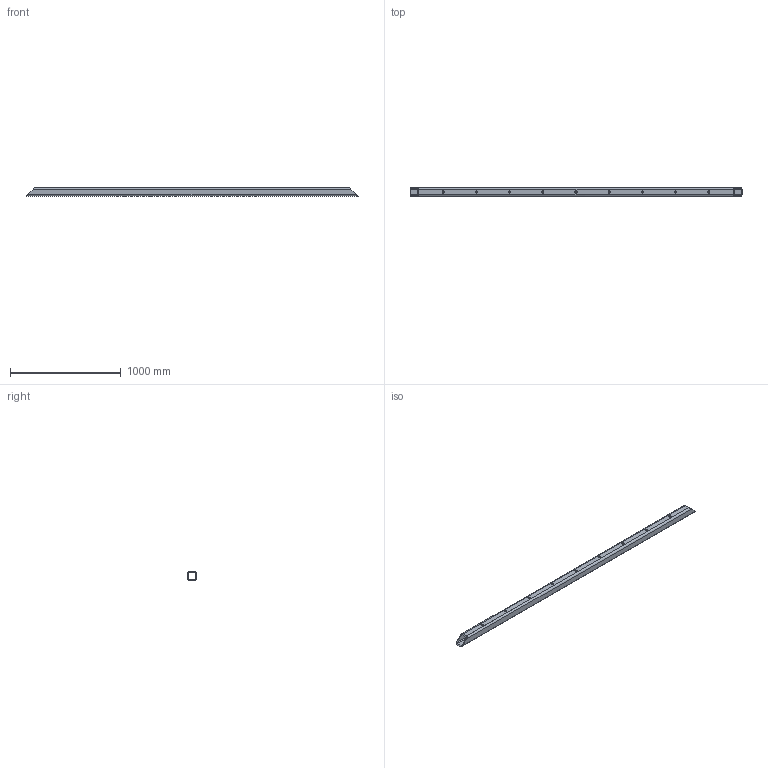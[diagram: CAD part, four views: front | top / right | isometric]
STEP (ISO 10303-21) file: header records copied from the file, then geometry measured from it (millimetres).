
FILE_DESCRIPTION(('Open CASCADE Model'),'2;1');
FILE_NAME('Open CASCADE Shape Model','2016-07-06T13:06:51',('Author'),( 'Open CASCADE'),'Open CASCADE STEP processor 6.8','Open CASCADE 6.8' ,'Unknown');
FILE_SCHEMA(('AUTOMOTIVE_DESIGN_CC2 { 1 2 10303 214 -1 1 5 4 }'));
Length unit declared in the file: millimetre
Products named in the file (1): Open CASCADE STEP translator 6.8 1
Bounding box: 3000 x 80 x 80 mm (x, y, z)
Volume: 6223803 mm3; surface area: 1566525.2 mm2
Topology: 1 solids, 1 shells, 27 faces, 75 edges, 50 vertices
Faces by surface type: cylinder 17, plane 10
Full cylindrical faces by diameter (mm): 20 x9
Entity records: 2006 total; most frequent: CARTESIAN_POINT 591, DIRECTION 229, ORIENTED_EDGE 150, PCURVE 150, DEFINITIONAL_REPRESENTATION 150, LINE 89, VECTOR 89, EDGE_CURVE 75
